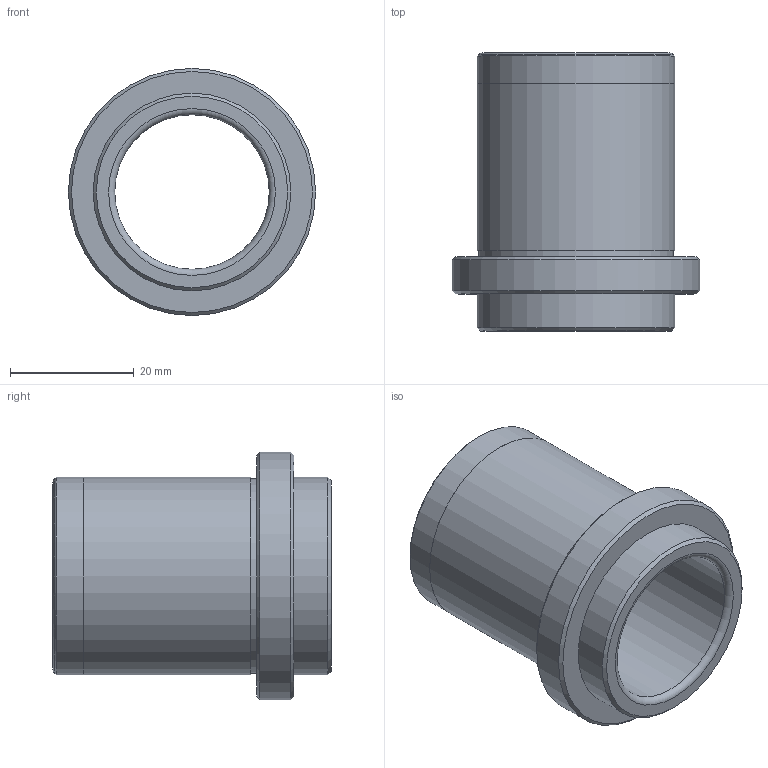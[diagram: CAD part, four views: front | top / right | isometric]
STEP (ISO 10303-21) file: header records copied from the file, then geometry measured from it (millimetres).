
FILE_DESCRIPTION( ( 'STEP AP203' ), '1' );
FILE_NAME( 'C:/Documents and Settings/EXPER/Desktop/Cuma/24 03 2009/D28/D28_19X33.step', '2003-01-02T03:45:52', ( ' ' ), ( ' ' ), 'XStep 1.0', ' ', ' ' );
FILE_SCHEMA( ( 'CONFIG_CONTROL_DESIGN' ) );
Length unit declared in the file: metre
Products named in the file (1): 1
Bounding box: 40 x 45 x 40 mm (x, y, z)
Volume: 16687.8 mm3; surface area: 9583.6 mm2
Topology: 1 solids, 1 shells, 19 faces, 32 edges, 19 vertices
Faces by surface type: plane 6, cylinder 6, cone 4, torus 3
Full cylindrical faces by diameter (mm): 25 x1, 31.5 x1, 31.98 x2, 32 x1, 40 x1
Entity records: 433 total; most frequent: DIRECTION 78, CARTESIAN_POINT 58, AXIS2_PLACEMENT_3D 39, EDGE_LOOP 38, ORIENTED_EDGE 38, FACE_OUTER_BOUND 28, ADVANCED_FACE 19, EDGE_CURVE 19
